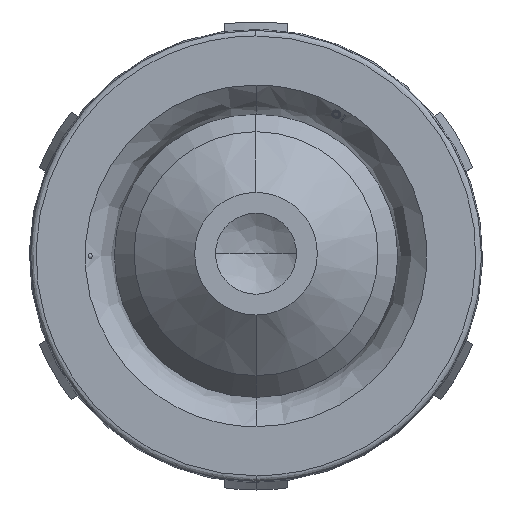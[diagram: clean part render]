
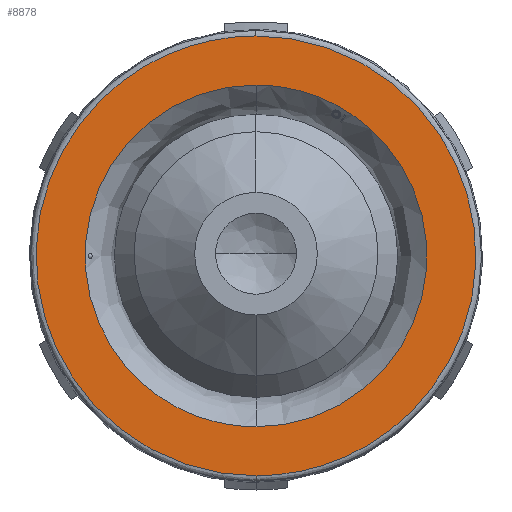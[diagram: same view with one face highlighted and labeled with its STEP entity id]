
A CAD part, left-side view. The second image highlights one B-rep face of the part: STEP entity #8878.
In plain terms, the highlighted planar face has unit normal (-1, 0, 0).
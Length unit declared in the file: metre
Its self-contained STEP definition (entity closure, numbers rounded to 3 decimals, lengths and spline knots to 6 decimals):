
#11 = CARTESIAN_POINT ( 'NONE',  ( 0., 0., 0.0121 ) ) ;
#41 = EDGE_CURVE ( 'NONE', #4327, #10458, #1875, .T. ) ;
#499 = EDGE_LOOP ( 'NONE', ( #24323, #5851 ) ) ;
#1875 =( BOUNDED_CURVE ( )  B_SPLINE_CURVE ( 3, ( #3175, #18493, #2856, #4917 ),
 .UNSPECIFIED., .F., .F. ) 
 B_SPLINE_CURVE_WITH_KNOTS ( ( 4, 4 ),
 ( 0., 1. ),
 .UNSPECIFIED. ) 
 CURVE ( )  GEOMETRIC_REPRESENTATION_ITEM ( )  RATIONAL_B_SPLINE_CURVE ( ( 0.957, 0.319, 0.319, 0.957 ) ) 
 REPRESENTATION_ITEM ( '' )  );
#2413 = CARTESIAN_POINT ( 'NONE',  ( 0., 0., -0.0121 ) ) ;
#2753 = CARTESIAN_POINT ( 'NONE',  ( 0., 0.0188, 0.0094 ) ) ;
#2856 = CARTESIAN_POINT ( 'NONE',  ( 0., 0.0242, 0.0121 ) ) ;
#3175 = CARTESIAN_POINT ( 'NONE',  ( 0., 0., -0.0121 ) ) ;
#4327 = VERTEX_POINT ( 'NONE', #2413 ) ;
#4733 = CARTESIAN_POINT ( 'NONE',  ( 0., 0.0188, -0.0094 ) ) ;
#4917 = CARTESIAN_POINT ( 'NONE',  ( 0., 0., 0.0121 ) ) ;
#5311 =( BOUNDED_CURVE ( )  B_SPLINE_CURVE ( 3, ( #24705, #16816, #7133, #22781 ),
 .UNSPECIFIED., .F., .F. ) 
 B_SPLINE_CURVE_WITH_KNOTS ( ( 4, 4 ),
 ( 0., 0.029383 ),
 .UNSPECIFIED. ) 
 CURVE ( )  GEOMETRIC_REPRESENTATION_ITEM ( )  RATIONAL_B_SPLINE_CURVE ( ( 0.972, 0.324, 0.324, 0.972 ) ) 
 REPRESENTATION_ITEM ( '' )  );
#5316 = PLANE ( 'NONE',  #16804 ) ;
#5851 = ORIENTED_EDGE ( 'NONE', *, *, #6113, .F. ) ;
#6035 = EDGE_CURVE ( 'NONE', #10458, #4327, #15215, .T. ) ;
#6113 = EDGE_CURVE ( 'NONE', #24225, #18896, #16624, .T. ) ;
#6118 = ORIENTED_EDGE ( 'NONE', *, *, #6035, .F. ) ;
#6369 = FACE_OUTER_BOUND ( 'NONE', #18417, .T. ) ;
#7133 = CARTESIAN_POINT ( 'NONE',  ( 0., -0.0188, 0.0094 ) ) ;
#8878 = ADVANCED_FACE ( 'NONE', ( #23548, #6369 ), #5316, .F. ) ;
#9284 = CARTESIAN_POINT ( 'NONE',  ( 0., 0., 0.0094 ) ) ;
#10458 = VERTEX_POINT ( 'NONE', #11 ) ;
#12409 = CARTESIAN_POINT ( 'NONE',  ( 0., 0., 0.0094 ) ) ;
#13376 = DIRECTION ( 'NONE',  ( 1., 0., 0. ) ) ;
#15215 =( BOUNDED_CURVE ( )  B_SPLINE_CURVE ( 3, ( #17973, #18058, #21929, #19904 ),
 .UNSPECIFIED., .F., .F. ) 
 B_SPLINE_CURVE_WITH_KNOTS ( ( 4, 4 ),
 ( 0., 1. ),
 .UNSPECIFIED. ) 
 CURVE ( )  GEOMETRIC_REPRESENTATION_ITEM ( )  RATIONAL_B_SPLINE_CURVE ( ( 0.957, 0.319, 0.319, 0.957 ) ) 
 REPRESENTATION_ITEM ( '' )  );
#16499 = ORIENTED_EDGE ( 'NONE', *, *, #41, .F. ) ;
#16624 =( BOUNDED_CURVE ( )  B_SPLINE_CURVE ( 3, ( #12409, #2753, #4733, #22018 ),
 .UNSPECIFIED., .F., .F. ) 
 B_SPLINE_CURVE_WITH_KNOTS ( ( 4, 4 ),
 ( 0., 0.029383 ),
 .UNSPECIFIED. ) 
 CURVE ( )  GEOMETRIC_REPRESENTATION_ITEM ( )  RATIONAL_B_SPLINE_CURVE ( ( 0.972, 0.324, 0.324, 0.972 ) ) 
 REPRESENTATION_ITEM ( '' )  );
#16804 = AXIS2_PLACEMENT_3D ( 'NONE', #22826, #13376, #18799 ) ;
#16816 = CARTESIAN_POINT ( 'NONE',  ( 0., -0.0188, -0.0094 ) ) ;
#17973 = CARTESIAN_POINT ( 'NONE',  ( 0., 0., 0.0121 ) ) ;
#18058 = CARTESIAN_POINT ( 'NONE',  ( 0., -0.0242, 0.0121 ) ) ;
#18417 = EDGE_LOOP ( 'NONE', ( #6118, #16499 ) ) ;
#18493 = CARTESIAN_POINT ( 'NONE',  ( 0., 0.0242, -0.0121 ) ) ;
#18799 = DIRECTION ( 'NONE',  ( 0., 0., -1. ) ) ;
#18896 = VERTEX_POINT ( 'NONE', #23683 ) ;
#19904 = CARTESIAN_POINT ( 'NONE',  ( 0., 0., -0.0121 ) ) ;
#20057 = EDGE_CURVE ( 'NONE', #18896, #24225, #5311, .T. ) ;
#21929 = CARTESIAN_POINT ( 'NONE',  ( 0., -0.0242, -0.0121 ) ) ;
#22018 = CARTESIAN_POINT ( 'NONE',  ( 0., 0., -0.0094 ) ) ;
#22781 = CARTESIAN_POINT ( 'NONE',  ( 0., 0., 0.0094 ) ) ;
#22826 = CARTESIAN_POINT ( 'NONE',  ( 0., -0.012245, 0.012245 ) ) ;
#23548 = FACE_BOUND ( 'NONE', #499, .T. ) ;
#23683 = CARTESIAN_POINT ( 'NONE',  ( 0., 0., -0.0094 ) ) ;
#24225 = VERTEX_POINT ( 'NONE', #9284 ) ;
#24323 = ORIENTED_EDGE ( 'NONE', *, *, #20057, .F. ) ;
#24705 = CARTESIAN_POINT ( 'NONE',  ( 0., 0., -0.0094 ) ) ;
